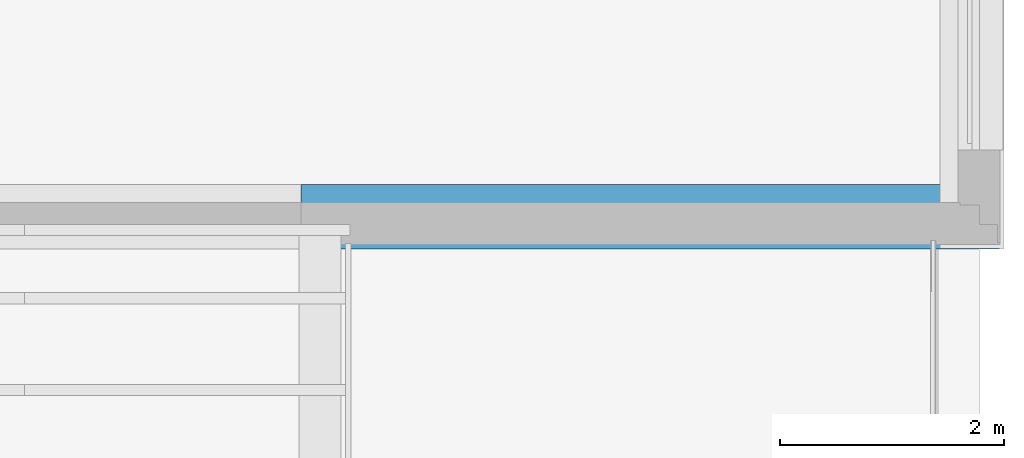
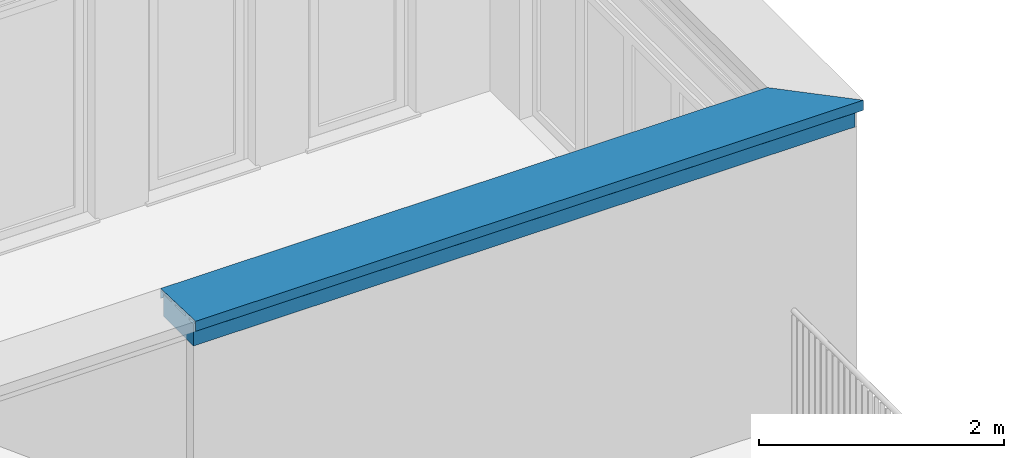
# One storey, part 5 of 15: 1 beam.
"""IFC4 building model written with IfcOpenShell, lengths in metres."""

from ifc_helpers import new_model, entity, si_unit, converted_unit, derived_unit, direction, frame, origin_with_axes, place, context, subcontext, project, spatial, triangles, material, constituent, constituent_set, type_object, element, save


model = new_model("IFC4")

# Units and contexts
model_context = context("Model", 3, precision=1e-05, world=origin_with_axes(), true_north=direction((-0.526213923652, 0.850352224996)))
body_context = subcontext(model_context, "Body", "Model", "MODEL_VIEW")
ifc_project = project(units=[si_unit("LENGTHUNIT", "METRE"), si_unit("AREAUNIT", "SQUARE_METRE"), si_unit("VOLUMEUNIT", "CUBIC_METRE"), converted_unit("PLANEANGLEUNIT", "DEGREE", entity("IfcPlaneAngleMeasure", 0.0174532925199), si_unit("PLANEANGLEUNIT", "RADIAN"), dimensions=[0, 0, 0, 0, 0, 0, 0]), si_unit("SOLIDANGLEUNIT", "STERADIAN"), converted_unit("TIMEUNIT", "Year", entity("IfcTimeMeasure", 31556926.0), si_unit("TIMEUNIT", "SECOND"), dimensions=[0, 0, 1, 0, 0, 0, 0]), si_unit("MASSUNIT", "GRAM", prefix="KILO"), si_unit("THERMODYNAMICTEMPERATUREUNIT", "DEGREE_CELSIUS"), si_unit("LUMINOUSINTENSITYUNIT", "LUMEN"), si_unit("ENERGYUNIT", "JOULE", prefix="MEGA"), derived_unit("THERMALCONDUCTANCEUNIT", [(si_unit("POWERUNIT", "WATT"), 1), (si_unit("LENGTHUNIT", "METRE"), -1), (si_unit("THERMODYNAMICTEMPERATUREUNIT", "KELVIN"), -1)]), derived_unit("SPECIFICHEATCAPACITYUNIT", [(si_unit("ENERGYUNIT", "JOULE"), 1), (si_unit("MASSUNIT", "GRAM", prefix="KILO"), -1), (si_unit("THERMODYNAMICTEMPERATUREUNIT", "KELVIN"), -1)]), derived_unit("MASSDENSITYUNIT", [(si_unit("MASSUNIT", "GRAM", prefix="KILO"), 1), (si_unit("VOLUMEUNIT", "CUBIC_METRE"), -1)])], contexts=[model_context])

# Site, building, storey, space
site_placement = place(None, origin_with_axes())
site = spatial("IfcSite", under=ifc_project, at=site_placement, Name="Gelände", CompositionType="ELEMENT")
building_placement = place(site_placement, origin_with_axes())
building = spatial("IfcBuilding", under=site, at=building_placement, Name="Haus vom Nikolaus", CompositionType="ELEMENT")
storey_placement = place(building_placement, frame((0.0, 0.0, 3.75), z_axis=(0.0, 0.0, 1.0), x_axis=(1.0, 0.0, 0.0)))
storey = spatial("IfcBuildingStorey", under=building, at=storey_placement, Name="1. OG", CompositionType="ELEMENT", Elevation=3.75)
space_placement = place(storey_placement, frame((-0.115002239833, 5.36483188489, 0.0), z_axis=(0.0, 0.0, 1.0), x_axis=(-1.0, 0.0, 0.0)))
space = spatial("IfcSpace", under=storey, at=space_placement, Name="OG", CompositionType="ELEMENT")

# Beam
ifc_material_1 = material(Name="Verputz, Kalkzement")
ifc_constituent_1 = constituent(ifc_material_1, Name="Component 1")
ifc_material_2 = material(Name="Holz, Bauholz")
ifc_constituent_2 = constituent(ifc_material_2, Name="Component 2")
ifc_material_3 = material(Name="Dämmung, hart XPS")
ifc_constituent_3 = constituent(ifc_material_3, Name="Component 3")
ifc_material_4 = material(Name="Holz, Brettschichtholz")
ifc_constituent_4 = constituent(ifc_material_4, Name="Component 4")
ifc_material_5 = material(Name="MW Kalksandstein")
ifc_constituent_5 = constituent(ifc_material_5, Name="Component 5")
ifc_constituent_6 = constituent(ifc_material_2, Name="Component 6")
ifc_constituent_7 = constituent(ifc_material_3, Name="Component 7")
ifc_material_6 = material(Name="Holz, Spanplatte")
ifc_constituent_8 = constituent(ifc_material_6, Name="Component 8")
ifc_material_7 = material(Name="Metall, Stahl verzinkt")
ifc_constituent_9 = constituent(ifc_material_7, Name="Component 9")
ifc_constituent_set = constituent_set(constituents=[ifc_constituent_1, ifc_constituent_2, ifc_constituent_3, ifc_constituent_4, ifc_constituent_5, ifc_constituent_6, ifc_constituent_7, ifc_constituent_8, ifc_constituent_9], Name="Bauteil - Attika Mauerwerk")
beam_type = type_object("IfcBeamType", Name="Bauteil - Attika Mauerwerk 574 x 270", PredefinedType="NOTDEFINED")
beam_placement = place(space_placement, frame((-11.3749998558, -2.10000018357, 2.82), z_axis=(0.0, 0.0, 1.0), x_axis=(1.0, 8.41480415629e-09, 0.0)))
element("IfcBeam", 1, at=beam_placement, inside=space, type_object=beam_type, material=ifc_constituent_set, Name="Attika-Wand-004", ObjectType="Bauteil - Attika Mauerwerk 574 x 270", context=body_context, shape_type="Tessellation", body=[
    triangles([(6.06961557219, 0.179999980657, 0.300000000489), (-0.160124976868, 0.160124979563, 0.300000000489), (6.06961557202, 0.160124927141, 0.300000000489), (-0.160124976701, 0.180000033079, 0.300000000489), (-0.160039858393, 0.180000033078, 0.259126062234), (-0.160039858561, 0.160039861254, 0.259126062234), (6.06961557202, 0.159999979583, 0.239999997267), (-0.160023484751, 0.160023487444, 0.251263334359), (-0.160018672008, 0.160018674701, 0.24895224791), (-0.160000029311, 0.160000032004, 0.239999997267), (6.06961557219, 0.179999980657, 0.08), (6.06961557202, 0.159999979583, 0.08), (-0.160000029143, 0.180000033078, 0.228597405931), (-0.160000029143, 0.180000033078, 0.23090849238), (-0.160000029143, 0.180000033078, 0.08), (-0.160000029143, 0.180000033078, 0.238724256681), (-0.160000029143, 0.180000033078, 0.239999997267), (-0.160018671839, 0.180000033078, 0.24895224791), (-0.160023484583, 0.180000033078, 0.251263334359), (-0.160000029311, 0.160000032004, 0.228597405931), (-0.160000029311, 0.160000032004, 0.23090849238), (-0.160000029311, 0.160000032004, 0.238724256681), (-0.160000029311, 0.160000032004, 0.08)], [[1, 2, 3], [2, 1, 4], [5, 2, 4], [2, 5, 6], [7, 6, 8], [3, 6, 7], [7, 8, 9], [7, 9, 10], [6, 3, 2], [11, 1, 7], [11, 7, 12], [3, 7, 1], [13, 1, 11], [1, 5, 4], [14, 1, 13], [15, 13, 11], [16, 1, 14], [17, 1, 16], [18, 1, 17], [19, 5, 1], [18, 19, 1], [19, 6, 5], [19, 8, 6], [18, 8, 19], [18, 9, 8], [17, 9, 18], [17, 10, 9], [20, 7, 21], [21, 7, 22], [7, 20, 12], [12, 20, 23], [22, 7, 10], [11, 23, 15], [11, 12, 23], [23, 13, 15], [13, 23, 20], [13, 21, 14], [13, 20, 21], [14, 22, 16], [14, 21, 22], [16, 10, 17], [16, 22, 10]], closed=True),
    triangles([(-0.0501249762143, 0.110082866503, 0.30784881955), (6.0696155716, 0.110124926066, 0.300000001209), (-0.0501249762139, 0.110124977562, 0.300000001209), (-0.10999599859, 0.109996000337, 0.324039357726), (6.0696155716, 0.109995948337, 0.324039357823), (-0.0501249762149, 0.110007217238, 0.321948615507), (-0.0501249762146, 0.110039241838, 0.315979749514), (-0.0501249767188, 0.0501249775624, 0.321948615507), (6.0696155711, 0.050124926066, 0.321948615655), (6.0696155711, 0.050124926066, 0.300000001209), (-0.0501249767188, 0.0501249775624, 0.300000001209), (-0.0501249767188, 0.0501249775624, 0.30784881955), (-0.0501249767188, 0.0501249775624, 0.315979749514)], [[1, 2, 3], [4, 5, 6], [7, 2, 1], [2, 7, 5], [5, 7, 6], [6, 8, 4], [5, 8, 9], [8, 5, 4], [2, 9, 10], [2, 5, 9], [10, 3, 2], [3, 10, 11], [11, 1, 3], [1, 11, 12], [12, 7, 1], [7, 12, 13], [13, 6, 7], [6, 13, 8], [9, 12, 10], [12, 9, 13], [10, 12, 11], [13, 9, 8]], closed=True),
    triangles([(6.06961557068, -5.1074626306e-08, 0.24), (1.3463701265e-09, 0.16, 0.24), (0.0, 0.0, 0.24), (6.06961557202, 0.159999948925, 0.24), (0.0, 0.0, 0.238724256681), (1.34637190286e-09, 0.16, 0.238724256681), (0.0, 0.0, 0.23090849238), (0.0, 0.0, 0.228597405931), (6.06961557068, -5.10746502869e-08, 0.0799999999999), (0.0, 0.0, 0.0799999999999), (6.06961557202, 0.159999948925, 0.0800000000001), (1.34637190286e-09, 0.16, 0.228597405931), (1.34639499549e-09, 0.16, 0.0799999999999), (1.34637190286e-09, 0.16, 0.23090849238)], [[1, 2, 3], [1, 4, 2], [2, 5, 3], [2, 6, 5], [7, 1, 5], [8, 1, 7], [9, 8, 10], [1, 8, 9], [5, 1, 3], [1, 11, 4], [1, 9, 11], [12, 4, 11], [4, 6, 2], [12, 11, 13], [14, 6, 4], [12, 14, 4], [14, 5, 6], [14, 7, 5], [12, 7, 14], [12, 8, 7], [13, 8, 12], [13, 10, 8], [9, 13, 11], [13, 9, 10]], closed=True),
    triangles([(6.06961556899, -0.200000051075, 0.300000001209), (0.199999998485, -0.180000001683, 0.300000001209), (0.199999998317, -0.200000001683, 0.300000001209), (6.06961556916, -0.180000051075, 0.300000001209), (0.19999999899, -0.120000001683, 0.300000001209), (0.199999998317, -0.200000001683, 0.259126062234), (0.200000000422, 0.0501249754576, 0.300000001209), (0.200000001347, 0.160039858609, 0.259126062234), (0.200000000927, 0.110124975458, 0.300000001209), (0.200000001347, 0.160124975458, 0.300000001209), (6.06961556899, -0.200000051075, 0.24), (0.199999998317, -0.200000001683, 0.251263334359), (0.199999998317, -0.200000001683, 0.24895224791), (0.199999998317, -0.200000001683, 0.24), (6.0696155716, 0.110124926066, 0.300000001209), (6.06961557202, 0.159999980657, 0.24), (6.06961557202, 0.160124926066, 0.300000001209), (6.0696155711, 0.050124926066, 0.300000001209), (6.06961556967, -0.120000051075, 0.300000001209), (0.200000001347, 0.160018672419, 0.24895224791), (0.200000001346, 0.160000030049, 0.24), (0.200000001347, 0.16002348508, 0.251263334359)], [[1, 2, 3], [1, 4, 2], [5, 6, 2], [2, 6, 3], [7, 6, 5], [8, 7, 9], [8, 9, 10], [7, 8, 6], [11, 6, 12], [1, 6, 11], [11, 12, 13], [11, 13, 14], [6, 1, 3], [1, 11, 4], [15, 16, 17], [16, 18, 11], [18, 16, 15], [19, 11, 18], [4, 11, 19], [4, 5, 2], [4, 19, 5], [18, 5, 19], [5, 18, 7], [18, 9, 7], [18, 15, 9], [17, 9, 15], [9, 17, 10], [16, 8, 17], [17, 8, 10], [20, 16, 21], [22, 8, 16], [20, 22, 16], [22, 6, 8], [22, 12, 6], [20, 12, 22], [20, 13, 12], [21, 13, 20], [21, 14, 13], [11, 21, 16], [21, 11, 14]], closed=True),
    triangles([(6.06961557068, -5.1074626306e-08, 0.24), (0.199999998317, -0.200000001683, 0.24), (6.06961556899, -0.200000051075, 0.24), (0.2, -1.68296132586e-09, 0.24), (0.199999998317, -0.200000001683, 0.238724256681), (0.2, -1.68296043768e-09, 0.238724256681), (0.199999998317, -0.200000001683, 0.228597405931), (0.199999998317, -0.200000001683, 0.23090849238), (6.06961556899, -0.200000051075, 0.0800000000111), (0.199999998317, -0.200000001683, 0.0800000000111), (6.06961557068, -5.1074626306e-08, 0.0799999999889), (0.2, -1.68296132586e-09, 0.228597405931), (0.2, -1.68296132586e-09, 0.23090849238), (0.2, -1.68296132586e-09, 0.0800000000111)], [[1, 2, 3], [2, 1, 4], [4, 5, 2], [4, 6, 5], [7, 3, 8], [8, 3, 5], [3, 7, 9], [9, 7, 10], [5, 3, 2], [9, 1, 3], [1, 9, 11], [12, 1, 11], [1, 6, 4], [13, 6, 1], [12, 11, 14], [13, 1, 12], [13, 5, 6], [13, 8, 5], [12, 8, 13], [12, 7, 8], [14, 7, 12], [14, 10, 7], [11, 10, 14], [11, 9, 10]], closed=True),
    triangles([(0.17999999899, -0.120000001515, 0.300000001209), (0.180062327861, -0.120000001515, 0.30784881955), (6.06961556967, -0.120000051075, 0.300000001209), (0.11999999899, -0.12000000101, 0.315979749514), (6.06961556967, -0.120000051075, 0.315979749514), (0.180110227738, -0.120000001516, 0.313880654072), (0.180062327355, -0.180062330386, 0.30784881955), (0.180110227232, -0.180110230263, 0.313880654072), (6.06961556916, -0.180110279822, 0.313880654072), (6.06961556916, -0.180000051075, 0.300000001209), (0.179999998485, -0.180000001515, 0.300000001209)], [[1, 2, 3], [4, 5, 6], [3, 6, 5], [6, 3, 2], [6, 7, 8], [7, 6, 2], [6, 8, 4], [5, 8, 9], [8, 5, 4], [3, 9, 10], [3, 5, 9], [10, 1, 3], [1, 10, 11], [11, 2, 1], [2, 11, 7], [7, 10, 8], [11, 10, 7], [9, 8, 10]], closed=True),
    triangles([(6.06961556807, -0.310282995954, 0.300000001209), (0.310282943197, -0.200000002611, 0.300000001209), (0.310282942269, -0.31028294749, 0.300000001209), (6.06961556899, -0.200000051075, 0.300000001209), (0.310282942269, -0.31028294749, 0.259126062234), (0.310282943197, -0.200000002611, 0.259126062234), (0.310282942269, -0.31028294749, 0.24895224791), (0.310282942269, -0.31028294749, 0.251263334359), (0.310282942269, -0.31028294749, 0.24), (0.310282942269, -0.31028294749, 0.238724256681), (0.310282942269, -0.31028294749, 0.23090849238), (0.310282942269, -0.31028294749, 0.228597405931), (6.06961556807, -0.310282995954, 0.08), (0.310282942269, -0.31028294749, 0.08), (6.06961556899, -0.200000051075, 0.08), (0.310282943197, -0.200000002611, 0.228597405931), (0.310282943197, -0.200000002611, 0.251263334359), (0.310282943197, -0.200000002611, 0.08), (0.310282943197, -0.200000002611, 0.23090849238), (0.310282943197, -0.200000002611, 0.238724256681), (0.310282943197, -0.200000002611, 0.24), (0.310282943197, -0.200000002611, 0.24895224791)], [[1, 2, 3], [1, 4, 2], [2, 5, 3], [2, 6, 5], [7, 1, 8], [8, 1, 5], [9, 1, 7], [10, 1, 9], [11, 1, 10], [12, 1, 11], [1, 12, 13], [13, 12, 14], [5, 1, 3], [4, 13, 15], [4, 1, 13], [16, 4, 15], [4, 6, 2], [17, 6, 4], [16, 15, 18], [19, 4, 16], [20, 4, 19], [21, 4, 20], [22, 4, 21], [17, 4, 22], [17, 5, 6], [17, 8, 5], [22, 8, 17], [22, 7, 8], [21, 7, 22], [21, 9, 7], [20, 9, 21], [20, 10, 9], [19, 10, 20], [19, 11, 10], [16, 11, 19], [16, 12, 11], [18, 12, 16], [18, 14, 12], [13, 18, 15], [18, 13, 14]], closed=True),
    triangles([(0.354205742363, 0.109996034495, 0.324039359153), (6.0696155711, 0.050124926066, 0.321948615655), (0.354132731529, 0.0501249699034, 0.321948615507), (6.0696155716, 0.109995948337, 0.324039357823), (6.06961557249, 0.21563609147, 0.348471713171), (6.06961556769, -0.354338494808, 0.327839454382), (6.0696155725, 0.216359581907, 0.327753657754), (6.0696155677, -0.353640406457, 0.30784881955), (0.353924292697, -0.120800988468, 0.315979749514), (0.353640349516, -0.353640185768, 0.307848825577), (0.354205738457, -0.354205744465, 0.324039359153), (0.354132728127, -0.354132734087, 0.321948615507), (0.354335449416, 0.21635963, 0.327753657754), (0.354338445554, 0.216356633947, 0.327839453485), (-0.21563614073, 0.215636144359, 0.348471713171), (0.354338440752, -0.354338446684, 0.327839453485), (0.353924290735, -0.353924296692, 0.315979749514)], [[1, 2, 3], [2, 1, 4], [2, 5, 6], [5, 4, 7], [5, 2, 4], [2, 6, 8], [3, 2, 9], [9, 8, 10], [8, 9, 2], [3, 11, 1], [3, 12, 11], [4, 13, 7], [4, 1, 13], [5, 14, 15], [14, 7, 13], [14, 5, 7], [16, 5, 15], [5, 16, 6], [10, 8, 17], [16, 8, 6], [12, 8, 11], [16, 11, 8], [17, 8, 12], [9, 10, 17], [12, 9, 17], [12, 3, 9], [16, 1, 11], [16, 14, 1], [1, 14, 13], [15, 14, 16]], closed=True),
    triangles([(0.355692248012, -0.354338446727, 0.24), (6.06961556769, -0.354338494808, 0.230908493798), (0.355692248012, -0.354338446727, 0.238724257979), (0.355692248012, -0.354338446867, 0.23090849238), (0.355692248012, -0.354338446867, 0.248952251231), (0.355692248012, -0.354338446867, 0.251263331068), (0.355692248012, -0.354338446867, 0.259126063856), (6.06961556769, -0.354338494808, 0.327839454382), (0.355692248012, -0.354338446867, 0.300000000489), (0.355692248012, -0.354338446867, 0.30784881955), (0.355692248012, -0.354338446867, 0.315979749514), (0.355692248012, -0.354338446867, 0.321948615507), (0.355692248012, -0.354338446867, 0.324039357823), (0.35569224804, -0.354338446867, 0.327839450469), (0.354338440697, -0.354338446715, 0.230908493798), (0.346522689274, -0.346522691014, 0.238724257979), (6.06961556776, -0.346522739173, 0.238724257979), (0.355692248, -0.355692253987, 0.238724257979), (0.355692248, -0.355692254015, 0.23090849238), (0.355692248, -0.355692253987, 0.24), (0.355692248, -0.355692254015, 0.248952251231), (0.355692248, -0.355692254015, 0.251263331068), (0.355692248, -0.355692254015, 0.259126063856), (0.355692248, -0.355692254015, 0.300000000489), (0.355692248, -0.355692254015, 0.30784881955), (0.355692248, -0.355692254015, 0.315979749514), (0.355692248, -0.355692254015, 0.321948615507), (0.355692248, -0.355692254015, 0.324039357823), (0.355692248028, -0.355692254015, 0.327839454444), (0.355692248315, -0.318268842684, 0.329145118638), (6.06961557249, 0.21563609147, 0.348471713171), (-0.178177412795, 0.215636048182, 0.348471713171), (6.06961556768, -0.355692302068, 0.329145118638), (6.06961556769, -0.354735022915, 0.228597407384), (6.06961556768, -0.355692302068, 0.229554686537), (6.06961556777, -0.3455184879, 0.237813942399), (6.06961557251, 0.217859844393, 0.349908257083), (6.0696155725, 0.216512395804, 0.348504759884), (6.06961557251, 0.217859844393, 0.249909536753), (6.06961557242, 0.207732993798, 0.258121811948), (6.0696155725, 0.21690256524, 0.248952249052), (6.0696155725, 0.216506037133, 0.251263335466), (6.06961557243, 0.208643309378, 0.259126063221), (0.347432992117, -0.345518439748, 0.237813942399), (0.354338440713, -0.352423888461, 0.230908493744), (0.355692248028, -0.352423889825, 0.230908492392), (0.355692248, -0.355692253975, 0.229554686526), (0.355692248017, -0.353777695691, 0.229554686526), (0.355692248, -0.355692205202, 0.329145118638), (-0.17817741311, 0.178177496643, 0.348471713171), (-0.179090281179, 0.216512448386, 0.348504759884), (-0.214591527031, 0.216506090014, 0.251263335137), (-0.216506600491, 0.216506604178, 0.259126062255), (-0.216506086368, 0.21650609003, 0.251263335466), (-0.216512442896, 0.21651244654, 0.348471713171), (-0.216512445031, 0.216512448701, 0.348504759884), (-0.216510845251, 0.216510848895, 0.324039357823), (-0.216511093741, 0.216511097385, 0.327839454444), (-0.216510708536, 0.21651071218, 0.321948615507), (-0.216510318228, 0.216510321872, 0.315979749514), (-0.216509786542, 0.216509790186, 0.30784881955), (-0.216509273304, 0.216509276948, 0.300000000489), (-0.208643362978, 0.208643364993, 0.259126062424), (-0.207733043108, 0.209647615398, 0.258121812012), (-0.207733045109, 0.207733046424, 0.258121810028), (-0.216902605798, 0.216902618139, 0.248952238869), (-0.214591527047, 0.214591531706, 0.251263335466), (-0.215945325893, 0.217859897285, 0.249909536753), (-0.179090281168, 0.217859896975, 0.348504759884), (-0.216509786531, 0.21785989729, 0.30784881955), (-0.216510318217, 0.21785989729, 0.315979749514), (-0.21459152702, 0.217859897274, 0.251263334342), (-0.216506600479, 0.21785989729, 0.259126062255), (-0.216506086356, 0.21785989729, 0.251263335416), (-0.216509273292, 0.21785989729, 0.300000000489), (-0.216510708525, 0.21785989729, 0.321948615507), (-0.216510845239, 0.21785989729, 0.324039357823), (-0.21651109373, 0.21785989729, 0.327839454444), (-0.216512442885, 0.21785989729, 0.348471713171), (-0.21651244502, 0.21785989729, 0.348504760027), (-0.217859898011, 0.217859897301, 0.349908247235), (-0.179090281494, 0.179090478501, 0.348504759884), (0.354734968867, -0.354734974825, 0.228597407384)], [[1, 2, 3], [3, 2, 4], [5, 2, 1], [6, 2, 5], [7, 2, 6], [8, 7, 9], [8, 9, 10], [8, 10, 11], [8, 11, 12], [8, 12, 13], [8, 13, 14], [7, 8, 2], [15, 4, 16], [17, 4, 2], [17, 16, 4], [18, 4, 19], [4, 18, 3], [18, 1, 3], [18, 20, 1], [20, 5, 1], [20, 21, 5], [21, 6, 5], [21, 22, 6], [23, 6, 22], [23, 7, 6], [23, 9, 7], [23, 24, 9], [25, 9, 24], [25, 10, 9], [26, 10, 25], [26, 11, 10], [27, 11, 26], [27, 12, 11], [28, 12, 27], [28, 13, 12], [28, 14, 13], [28, 29, 14], [8, 30, 31], [31, 30, 32], [30, 8, 14], [31, 33, 8], [34, 2, 35], [2, 34, 36], [2, 36, 17], [33, 35, 2], [33, 31, 37], [37, 31, 38], [39, 37, 38], [40, 41, 42], [39, 38, 42], [40, 42, 43], [39, 42, 41], [8, 33, 2], [44, 17, 36], [44, 16, 17], [15, 16, 45], [44, 45, 16], [15, 46, 4], [15, 45, 46], [4, 47, 19], [47, 4, 48], [48, 4, 46], [29, 33, 49], [28, 33, 29], [27, 33, 28], [26, 33, 27], [24, 33, 25], [25, 33, 26], [23, 33, 24], [33, 23, 35], [21, 35, 22], [23, 22, 35], [19, 47, 35], [20, 35, 21], [18, 35, 20], [19, 35, 18], [14, 49, 30], [29, 49, 14], [49, 50, 30], [32, 30, 50], [32, 38, 31], [32, 51, 38], [52, 53, 54], [55, 51, 56], [51, 42, 38], [57, 51, 58], [58, 51, 55], [59, 51, 57], [60, 51, 59], [61, 51, 60], [62, 51, 61], [53, 51, 62], [53, 52, 51], [51, 52, 42], [63, 43, 64], [64, 42, 52], [42, 64, 43], [65, 43, 63], [43, 65, 40], [66, 41, 67], [65, 41, 40], [65, 67, 41], [68, 41, 66], [41, 68, 39], [69, 70, 71], [72, 39, 68], [73, 72, 74], [69, 39, 72], [69, 73, 75], [69, 75, 70], [69, 71, 76], [69, 76, 77], [69, 77, 78], [69, 78, 79], [69, 79, 80], [81, 37, 69], [39, 69, 37], [73, 69, 72], [82, 37, 81], [50, 37, 82], [37, 49, 33], [49, 37, 50], [47, 34, 35], [47, 83, 34], [45, 44, 46], [34, 46, 36], [36, 46, 44], [46, 34, 48], [83, 48, 34], [83, 47, 48], [82, 32, 50], [32, 82, 51], [80, 51, 69], [80, 56, 51], [56, 79, 55], [79, 56, 80], [55, 78, 58], [78, 55, 79], [58, 77, 57], [77, 58, 78], [57, 76, 59], [76, 57, 77], [59, 71, 60], [59, 76, 71], [60, 70, 61], [70, 60, 71], [61, 75, 62], [75, 61, 70], [62, 73, 53], [73, 62, 75], [53, 74, 54], [74, 53, 73], [52, 74, 72], [52, 54, 74], [64, 67, 65], [64, 52, 67], [63, 64, 65], [52, 72, 68], [52, 66, 67], [66, 52, 68], [81, 69, 51], [81, 51, 82]], closed=True),
])

save(model, "model.ifc")
